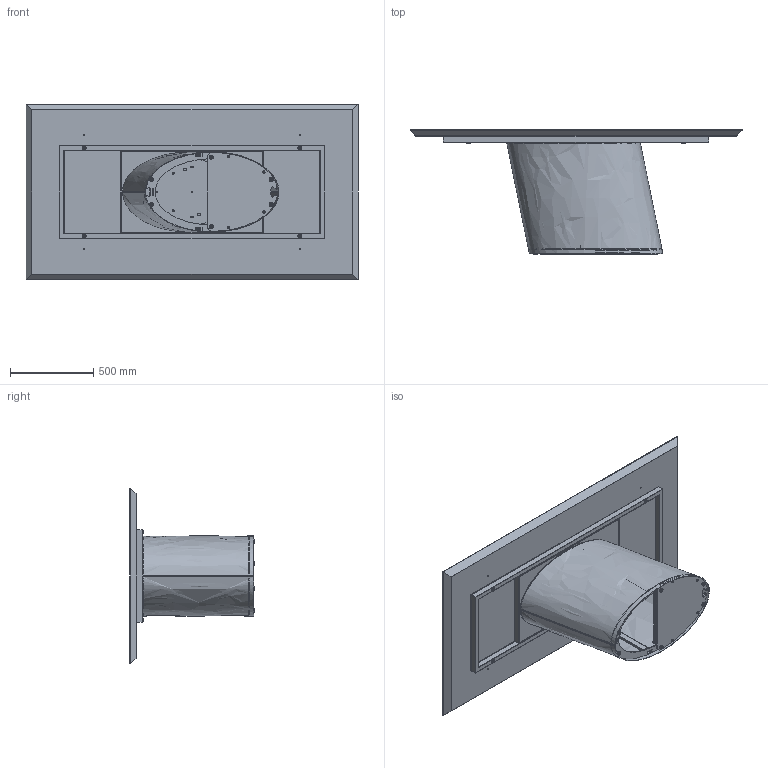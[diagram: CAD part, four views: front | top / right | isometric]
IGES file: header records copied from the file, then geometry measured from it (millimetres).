
Start section: SolidWorks IGES file using analytic representation for surfaces
Global section: file name: Y:\eforma\TECNICO\SOLIDWORKS\E-FORMA\1-TAVOLI\DORADO\02 parts\DO21W.IGS; native system: SolidWorks 2022; preprocessor: SolidWorks 2022; author: eforma.tech; date: 240806.150954; units: millimetre
Bounding box: 2000 x 750 x 1060 mm (x, y, z)
Volume: 88983489.1 mm3; surface area: 11603099.8 mm2
Topology: 45 solids, 45 shells, 1288 faces, 3126 edges, 1923 vertices
Faces by surface type: revolution 810, plane 452, bspline 26
